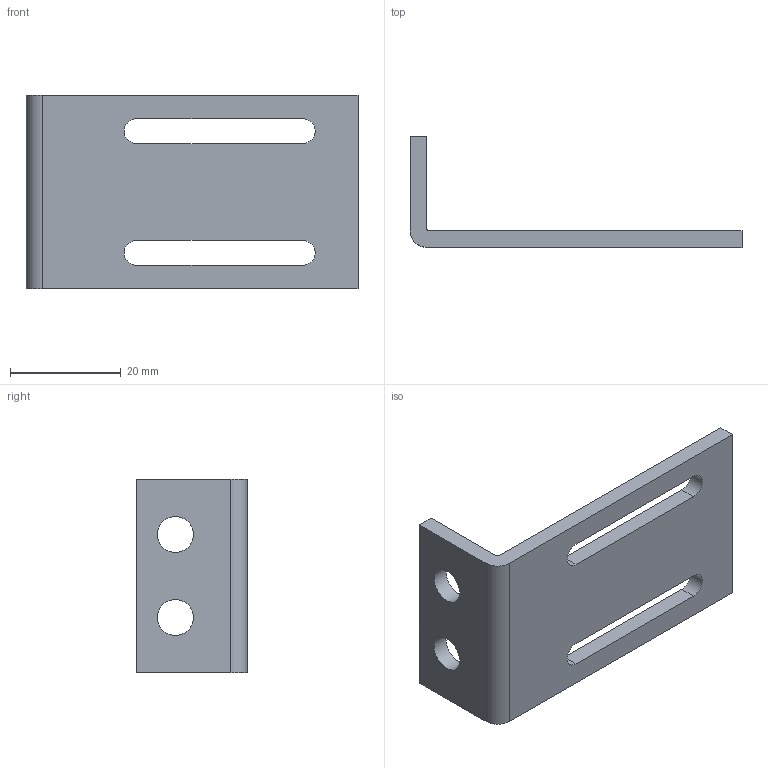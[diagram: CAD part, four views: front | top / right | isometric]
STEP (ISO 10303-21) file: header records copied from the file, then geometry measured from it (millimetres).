
FILE_DESCRIPTION (( 'STEP AP214' ), '1' );
FILE_NAME ('N20702.step', '2024-12-03T16:26:11', ( '' ), ( '' ), 'SwSTEP 2.0', 'SolidWorks 2023', '' );
FILE_SCHEMA (( 'AUTOMOTIVE_DESIGN' ));
Length unit declared in the file: millimetre
Products named in the file (1): N20702
Bounding box: 60 x 20 x 35 mm (x, y, z)
Volume: 6914.8 mm3; surface area: 5836.7 mm2
Topology: 1 solids, 1 shells, 20 faces, 54 edges, 36 vertices
Faces by surface type: plane 12, cylinder 8
Full cylindrical faces by diameter (mm): 6.5 x2
Entity records: 663 total; most frequent: DIRECTION 110, CARTESIAN_POINT 109, ORIENTED_EDGE 104, EDGE_CURVE 52, AXIS2_PLACEMENT_3D 37, VECTOR 36, VERTEX_POINT 36, LINE 36
